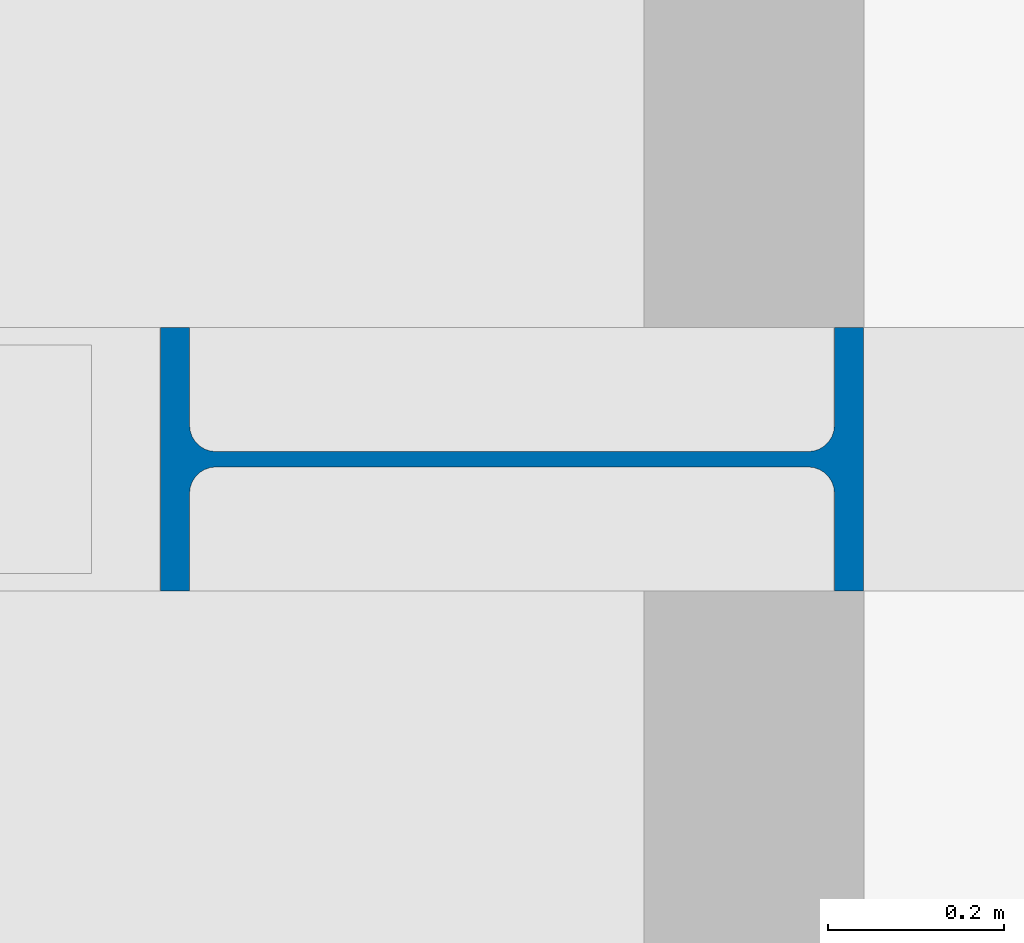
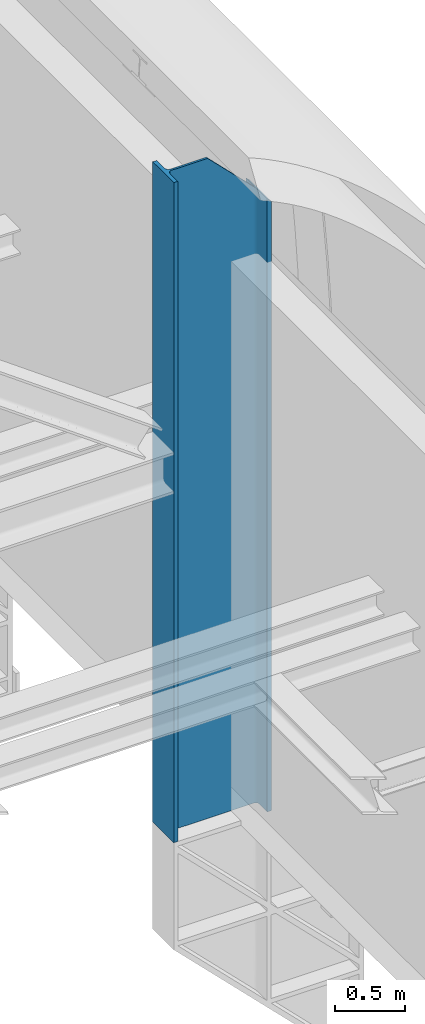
# One storey, part 2 of 29: 1 column.
"""IFC2X3 building model written with IfcOpenShell, lengths in millimetres."""

from ifc_helpers import new_model, entity, si_unit, converted_unit, derived_unit, direction, frame, frame_2d, origin, place, context, subcontext, project, spatial, i_section, extrude, clip, halfspace, source, transform, mapped, material, type_object, type_shapes, element, save


model = new_model("IFC2X3")

# Units and contexts
model_context = context("Model", 3, precision=0.01, world=origin(), true_north=direction((6.12303176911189e-17, 1.0)))
body_context = subcontext(model_context, "Body", "Model", "MODEL_VIEW")
ifc_project = project(units=[si_unit("LENGTHUNIT", "METRE", prefix="MILLI"), si_unit("AREAUNIT", "SQUARE_METRE", prefix="MILLI"), si_unit("VOLUMEUNIT", "CUBIC_METRE"), converted_unit("PLANEANGLEUNIT", "DEGREE", entity("IfcRatioMeasure", 0.0174532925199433), si_unit("PLANEANGLEUNIT", "RADIAN"), dimensions=[0, 0, 0, 0, 0, 0, 0]), si_unit("MASSUNIT", "GRAM", prefix="KILO"), derived_unit("MASSDENSITYUNIT", [(si_unit("MASSUNIT", "GRAM", prefix="KILO"), 1), (si_unit("LENGTHUNIT", "METRE"), -3)]), derived_unit("MOMENTOFINERTIAUNIT", [(si_unit("LENGTHUNIT", "METRE"), 4)]), si_unit("TIMEUNIT", "SECOND"), si_unit("FREQUENCYUNIT", "HERTZ"), si_unit("THERMODYNAMICTEMPERATUREUNIT", "DEGREE_CELSIUS"), derived_unit("THERMALTRANSMITTANCEUNIT", [(si_unit("MASSUNIT", "GRAM", prefix="KILO"), 1), (si_unit("THERMODYNAMICTEMPERATUREUNIT", "KELVIN"), -1), (si_unit("TIMEUNIT", "SECOND"), -3)]), derived_unit("VOLUMETRICFLOWRATEUNIT", [(si_unit("LENGTHUNIT", "METRE"), 3), (si_unit("TIMEUNIT", "SECOND"), -1)]), si_unit("ELECTRICCURRENTUNIT", "AMPERE"), si_unit("ELECTRICVOLTAGEUNIT", "VOLT"), si_unit("POWERUNIT", "WATT"), si_unit("FORCEUNIT", "NEWTON", prefix="KILO"), si_unit("ILLUMINANCEUNIT", "LUX"), si_unit("LUMINOUSFLUXUNIT", "LUMEN"), si_unit("LUMINOUSINTENSITYUNIT", "CANDELA"), derived_unit("USERDEFINED", [(si_unit("MASSUNIT", "GRAM", prefix="KILO"), -1), (si_unit("LENGTHUNIT", "METRE"), -2), (si_unit("TIMEUNIT", "SECOND"), 3), (si_unit("LUMINOUSFLUXUNIT", "LUMEN"), 1)]), derived_unit("LINEARVELOCITYUNIT", [(si_unit("LENGTHUNIT", "METRE"), 1), (si_unit("TIMEUNIT", "SECOND"), -1)]), si_unit("PRESSUREUNIT", "PASCAL"), derived_unit("USERDEFINED", [(si_unit("LENGTHUNIT", "METRE"), -2), (si_unit("MASSUNIT", "GRAM", prefix="KILO"), 1), (si_unit("TIMEUNIT", "SECOND"), -2)]), derived_unit("LINEARFORCEUNIT", [(si_unit("MASSUNIT", "GRAM", prefix="KILO"), 1), (si_unit("LENGTHUNIT", "METRE"), 1), (si_unit("TIMEUNIT", "SECOND"), -2), (si_unit("LENGTHUNIT", "METRE"), -1)]), derived_unit("PLANARFORCEUNIT", [(si_unit("MASSUNIT", "GRAM", prefix="KILO"), 1), (si_unit("LENGTHUNIT", "METRE"), 1), (si_unit("TIMEUNIT", "SECOND"), -2), (si_unit("LENGTHUNIT", "METRE"), -2)])], contexts=[model_context])

# Site, building, storey
site_placement = place(None, origin())
site = spatial("IfcSite", under=ifc_project, at=site_placement, Name="Theater aan de Parade", CompositionType="ELEMENT")
building_placement = place(site_placement, origin())
building = spatial("IfcBuilding", under=site, at=building_placement, Name="Theater aan de Parade", CompositionType="ELEMENT")
storey_placement = place(building_placement, frame((0.0, 0.0, 20300.0)))
storey = spatial("IfcBuildingStorey", under=building, at=storey_placement, Name="05 vijfde verdieping", CompositionType="ELEMENT", Elevation=20300.0)

# Column
ifc_material = material(Name="00_PBT_MAT_staal_S355")
column_type = type_object("IfcColumnType", Name="28_PBT_SC_staal_H-profiel:S355_HE800B", PredefinedType="COLUMN", material=ifc_material)
shared_shape = source(origin(), body_context, "Body", "Clipping", [
    clip(extrude(i_section(OverallWidth=300.000000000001, OverallDepth=799.999999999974, WebThickness=17.5000000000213, FlangeThickness=32.9999999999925, FilletRadius=29.9999999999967, at=frame_2d((-4.32009983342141e-12, 0.0), x_axis=(1.0, 0.0))), frame((85904.5647725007, 24910.0, 19520.0), z_axis=(0.0, 0.0, 1.0), x_axis=(0.0, -1.0, 0.0)), (0.0, 0.0, 1.0), 5730.0), halfspace(frame((85554.5647724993, 35868.1089971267, 25558.9492687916), z_axis=(0.707106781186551, 0.0, 0.707106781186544), x_axis=(-0.707106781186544, 0.0, 0.707106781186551)), False)),
])
type_shapes(column_type, [shared_shape])
column_placement = place(storey_placement, frame((0.0, 0.0, -20300.0)))
element("IfcColumn", 1, at=column_placement, inside=storey, type_object=column_type, material=ifc_material, Name="28_PBT_SC_staal_H-profiel:S355_HE800B", ObjectType="28_PBT_SC_staal_H-profiel:S355_HE800B", context=body_context, shape_type="MappedRepresentation", body=[
    mapped(shared_shape, transform((0.0, 0.0, 0.0), scale=1.0)),
])

save(model, "model.ifc")
